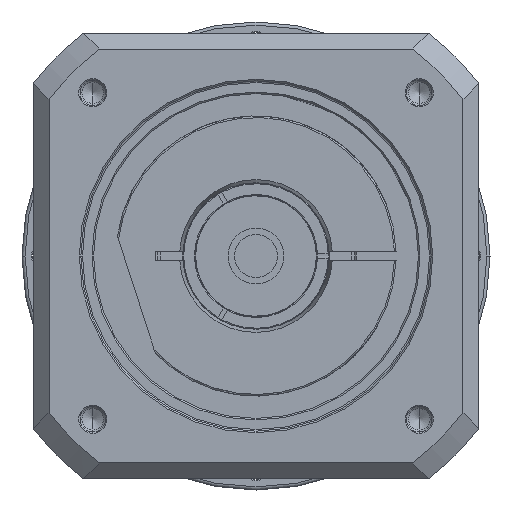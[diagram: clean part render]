
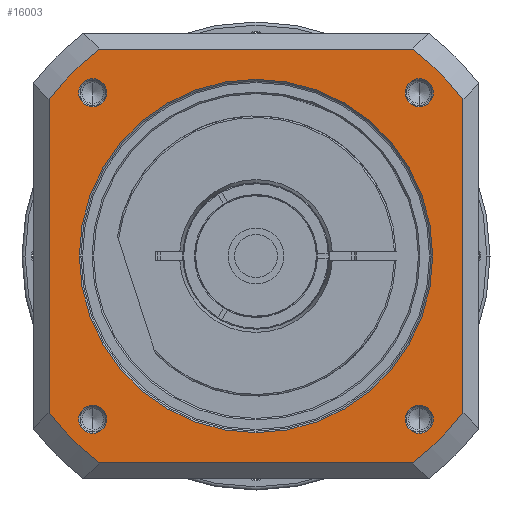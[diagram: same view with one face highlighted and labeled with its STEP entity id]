
A CAD part, left-side view. The second image highlights one B-rep face of the part: STEP entity #16003.
In plain terms, the highlighted planar face has unit normal (-1, 0, 0) as drawn and (0, 0, 1) by its records, which use the part's own axes.
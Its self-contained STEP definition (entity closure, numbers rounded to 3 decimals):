
#14776=CARTESIAN_POINT('',(0.,0.,
56.));
#14777=DIRECTION('',(0.,0.,-1.));
#14778=DIRECTION('',(0.,-1.,0.));
#14779=AXIS2_PLACEMENT_3D('',#14776,#14777,#14778);
#14781=CARTESIAN_POINT('',(0.,0.,
56.));
#14782=DIRECTION('',(0.,0.,-1.));
#14783=DIRECTION('',(0.,1.,0.));
#14784=AXIS2_PLACEMENT_3D('',#14781,#14782,#14783);
#14786=DIRECTION('',(1.,0.,0.));
#14787=VECTOR('',#14786,98.331);
#14788=CARTESIAN_POINT('',(-49.166,65.,56.));
#14789=LINE('',#14788,#14787);
#14790=CARTESIAN_POINT('',(0.,0.,56.));
#14791=DIRECTION('',(0.,0.,1.));
#14792=DIRECTION('',(0.798,0.603,0.));
#14793=AXIS2_PLACEMENT_3D('',#14790,#14791,#14792);
#14795=DIRECTION('',(0.,1.,0.));
#14796=VECTOR('',#14795,98.331);
#14797=CARTESIAN_POINT('',(65.,-49.166,56.));
#14798=LINE('',#14797,#14796);
#14799=DIRECTION('',(1.,0.,0.));
#14800=VECTOR('',#14799,98.331);
#14801=CARTESIAN_POINT('',(-49.166,-65.,56.));
#14802=LINE('',#14801,#14800);
#14803=CARTESIAN_POINT('',(0.,0.,56.));
#14804=DIRECTION('',(0.,0.,1.));
#14805=DIRECTION('',(-0.798,-0.603,0.));
#14806=AXIS2_PLACEMENT_3D('',#14803,#14804,#14805);
#14808=DIRECTION('',(0.,1.,0.));
#14809=VECTOR('',#14808,98.331);
#14810=CARTESIAN_POINT('',(-65.,-49.166,56.));
#14811=LINE('',#14810,#14809);
#14826=CARTESIAN_POINT('',(0.,0.,56.));
#14827=DIRECTION('',(0.,0.,1.));
#14828=DIRECTION('',(-0.603,0.798,0.));
#14829=AXIS2_PLACEMENT_3D('',#14826,#14827,#14828);
#14836=CARTESIAN_POINT('',(0.,0.,56.));
#14837=DIRECTION('',(0.,0.,1.));
#14838=DIRECTION('',(0.603,-0.798,0.));
#14839=AXIS2_PLACEMENT_3D('',#14836,#14837,#14838);
#14853=CARTESIAN_POINT('',(-49.166,65.,56.));
#14945=CARTESIAN_POINT('',(65.,-49.166,56.));
#14973=CARTESIAN_POINT('',(49.166,-65.,56.));
#15013=CARTESIAN_POINT('',(-65.,49.166,56.));
#15022=CARTESIAN_POINT('',(-51.265,51.265,56.));
#15023=DIRECTION('',(0.,0.,1.));
#15024=DIRECTION('',(-1.,0.,0.));
#15025=AXIS2_PLACEMENT_3D('',#15022,#15023,#15024);
#15040=CARTESIAN_POINT('',(-51.265,51.265,56.));
#15041=DIRECTION('',(0.,0.,1.));
#15042=DIRECTION('',(1.,0.,0.));
#15043=AXIS2_PLACEMENT_3D('',#15040,#15041,#15042);
#15076=CARTESIAN_POINT('',(51.265,51.265,56.));
#15077=DIRECTION('',(0.,0.,1.));
#15078=DIRECTION('',(-1.,0.,0.));
#15079=AXIS2_PLACEMENT_3D('',#15076,#15077,#15078);
#15094=CARTESIAN_POINT('',(51.265,51.265,56.));
#15095=DIRECTION('',(0.,0.,1.));
#15096=DIRECTION('',(1.,0.,0.));
#15097=AXIS2_PLACEMENT_3D('',#15094,#15095,#15096);
#15130=CARTESIAN_POINT('',(51.265,-51.265,56.));
#15131=DIRECTION('',(0.,0.,1.));
#15132=DIRECTION('',(-1.,0.,0.));
#15133=AXIS2_PLACEMENT_3D('',#15130,#15131,#15132);
#15148=CARTESIAN_POINT('',(51.265,-51.265,56.));
#15149=DIRECTION('',(0.,0.,1.));
#15150=DIRECTION('',(1.,0.,0.));
#15151=AXIS2_PLACEMENT_3D('',#15148,#15149,#15150);
#15184=CARTESIAN_POINT('',(-51.265,-51.265,56.));
#15185=DIRECTION('',(0.,0.,1.));
#15186=DIRECTION('',(-1.,0.,0.));
#15187=AXIS2_PLACEMENT_3D('',#15184,#15185,#15186);
#15202=CARTESIAN_POINT('',(-51.265,-51.265,56.));
#15203=DIRECTION('',(0.,0.,1.));
#15204=DIRECTION('',(1.,0.,0.));
#15205=AXIS2_PLACEMENT_3D('',#15202,#15203,#15204);
#15292=CARTESIAN_POINT('',(-55.665,51.265,56.));
#15293=CARTESIAN_POINT('',(-46.865,51.265,56.));
#15294=VERTEX_POINT('',#15292);
#15295=VERTEX_POINT('',#15293);
#15318=CARTESIAN_POINT('',(-65.,-49.166,56.));
#15319=CARTESIAN_POINT('',(-49.166,-65.,56.));
#15320=VERTEX_POINT('',#15318);
#15321=VERTEX_POINT('',#15319);
#15322=CARTESIAN_POINT('',(65.,49.166,56.));
#15323=CARTESIAN_POINT('',(49.166,65.,56.));
#15324=VERTEX_POINT('',#15322);
#15325=VERTEX_POINT('',#15323);
#15334=VERTEX_POINT('',#14853);
#15337=VERTEX_POINT('',#14945);
#15338=VERTEX_POINT('',#14973);
#15341=VERTEX_POINT('',#15013);
#15350=CARTESIAN_POINT('',(55.665,51.265,56.));
#15351=CARTESIAN_POINT('',(46.865,51.265,56.));
#15352=VERTEX_POINT('',#15350);
#15353=VERTEX_POINT('',#15351);
#15358=CARTESIAN_POINT('',(55.665,-51.265,56.));
#15359=CARTESIAN_POINT('',(46.865,-51.265,56.));
#15360=VERTEX_POINT('',#15358);
#15361=VERTEX_POINT('',#15359);
#15366=CARTESIAN_POINT('',(-46.865,-51.265,56.));
#15367=CARTESIAN_POINT('',(-55.665,-51.265,56.));
#15368=VERTEX_POINT('',#15366);
#15369=VERTEX_POINT('',#15367);
#15374=CARTESIAN_POINT('',(0.,-55.5,56.));
#15375=CARTESIAN_POINT('',(0.,55.5,
56.));
#15376=VERTEX_POINT('',#15374);
#15377=VERTEX_POINT('',#15375);
#15951=CARTESIAN_POINT('',(0.,0.,56.));
#15952=DIRECTION('',(0.,0.,1.));
#15953=DIRECTION('',(1.,0.,0.));
#15954=AXIS2_PLACEMENT_3D('',#15951,#15952,#15953);
#15955=PLANE('',#15954);
#15957=ORIENTED_EDGE('',*,*,#15956,.F.);
#15959=ORIENTED_EDGE('',*,*,#15958,.T.);
#15961=ORIENTED_EDGE('',*,*,#15960,.F.);
#15963=ORIENTED_EDGE('',*,*,#15962,.F.);
#15965=ORIENTED_EDGE('',*,*,#15964,.F.);
#15967=ORIENTED_EDGE('',*,*,#15966,.F.);
#15969=ORIENTED_EDGE('',*,*,#15968,.F.);
#15971=ORIENTED_EDGE('',*,*,#15970,.T.);
#15972=EDGE_LOOP('',(#15957,#15959,#15961,#15963,#15965,#15967,#15969,#15971));
#15973=FACE_OUTER_BOUND('',#15972,.F.);
#15974=ORIENTED_EDGE('',*,*,#15941,.F.);
#15976=ORIENTED_EDGE('',*,*,#15975,.F.);
#15977=EDGE_LOOP('',(#15974,#15976));
#15978=FACE_BOUND('',#15977,.F.);
#15980=ORIENTED_EDGE('',*,*,#15979,.T.);
#15982=ORIENTED_EDGE('',*,*,#15981,.T.);
#15983=EDGE_LOOP('',(#15980,#15982));
#15984=FACE_BOUND('',#15983,.F.);
#15986=ORIENTED_EDGE('',*,*,#15985,.T.);
#15988=ORIENTED_EDGE('',*,*,#15987,.T.);
#15989=EDGE_LOOP('',(#15986,#15988));
#15990=FACE_BOUND('',#15989,.F.);
#15992=ORIENTED_EDGE('',*,*,#15991,.T.);
#15994=ORIENTED_EDGE('',*,*,#15993,.T.);
#15995=EDGE_LOOP('',(#15992,#15994));
#15996=FACE_BOUND('',#15995,.F.);
#15998=ORIENTED_EDGE('',*,*,#15997,.T.);
#16000=ORIENTED_EDGE('',*,*,#15999,.T.);
#16001=EDGE_LOOP('',(#15998,#16000));
#16002=FACE_BOUND('',#16001,.F.);
#16003=ADVANCED_FACE('',(#15973,#15978,#15984,#15990,#15996,#16002),#15955,.T.);
#14780=CIRCLE('',#14779,55.5);
#14785=CIRCLE('',#14784,55.5);
#14794=CIRCLE('',#14793,81.5);
#14807=CIRCLE('',#14806,81.5);
#14830=CIRCLE('',#14829,81.5);
#14840=CIRCLE('',#14839,81.5);
#15026=CIRCLE('',#15025,4.4);
#15044=CIRCLE('',#15043,4.4);
#15080=CIRCLE('',#15079,4.4);
#15098=CIRCLE('',#15097,4.4);
#15134=CIRCLE('',#15133,4.4);
#15152=CIRCLE('',#15151,4.4);
#15188=CIRCLE('',#15187,4.4);
#15206=CIRCLE('',#15205,4.4);
#15941=EDGE_CURVE('',#15376,#15377,#14780,.T.);
#15956=EDGE_CURVE('',#15334,#15341,#14830,.T.);
#15958=EDGE_CURVE('',#15334,#15325,#14789,.T.);
#15960=EDGE_CURVE('',#15324,#15325,#14794,.T.);
#15962=EDGE_CURVE('',#15337,#15324,#14798,.T.);
#15964=EDGE_CURVE('',#15338,#15337,#14840,.T.);
#15966=EDGE_CURVE('',#15321,#15338,#14802,.T.);
#15968=EDGE_CURVE('',#15320,#15321,#14807,.T.);
#15970=EDGE_CURVE('',#15320,#15341,#14811,.T.);
#15975=EDGE_CURVE('',#15377,#15376,#14785,.T.);
#15979=EDGE_CURVE('',#15294,#15295,#15026,.T.);
#15981=EDGE_CURVE('',#15295,#15294,#15044,.T.);
#15985=EDGE_CURVE('',#15353,#15352,#15080,.T.);
#15987=EDGE_CURVE('',#15352,#15353,#15098,.T.);
#15991=EDGE_CURVE('',#15361,#15360,#15134,.T.);
#15993=EDGE_CURVE('',#15360,#15361,#15152,.T.);
#15997=EDGE_CURVE('',#15369,#15368,#15188,.T.);
#15999=EDGE_CURVE('',#15368,#15369,#15206,.T.);
